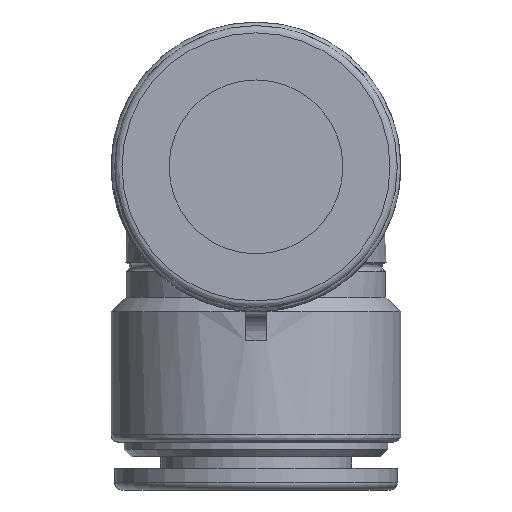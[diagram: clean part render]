
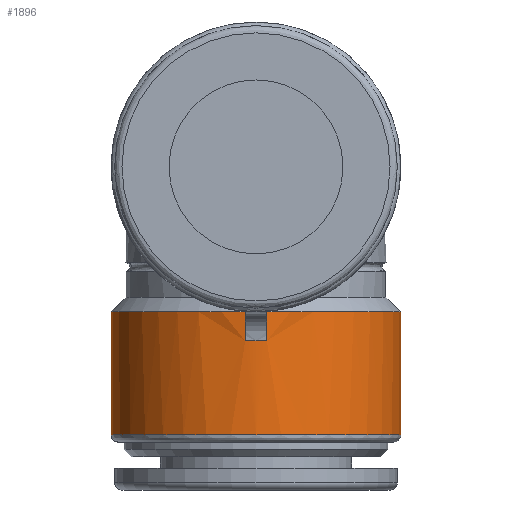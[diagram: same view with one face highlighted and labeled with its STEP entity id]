
A CAD part, left-side view. The second image highlights one B-rep face of the part: STEP entity #1896.
In plain terms, the highlighted free-form (B-spline) face has degree [1, 2] with [2, 9] control points.
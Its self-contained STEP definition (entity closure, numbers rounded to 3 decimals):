
#378=CARTESIAN_POINT('',(-10.,0.0,-12.));
#379=VERTEX_POINT('',#378);
#380=CARTESIAN_POINT('',(-9.972,0.75,-12.));
#381=VERTEX_POINT('',#380);
#382=CARTESIAN_POINT('',(0.,0.0,-12.));
#383=DIRECTION('',(0.0,0.0,-1.0));
#384=DIRECTION('',(1.0,0.0,0.0));
#385=AXIS2_PLACEMENT_3D('',#382,#383,#384);
#386=CIRCLE('',#385,10.0);
#387=EDGE_CURVE('',#379,#381,#386,.T.);
#411=CARTESIAN_POINT('',(-9.972,-0.75,-12.));
#412=VERTEX_POINT('',#411);
#413=CARTESIAN_POINT('',(0.,0.0,-12.));
#414=DIRECTION('',(0.0,0.0,-1.0));
#415=DIRECTION('',(1.0,0.0,0.0));
#416=AXIS2_PLACEMENT_3D('',#413,#414,#415);
#417=CIRCLE('',#416,10.0);
#418=EDGE_CURVE('',#412,#379,#417,.T.);
#452=CARTESIAN_POINT('',(-9.972,-0.75,-10.));
#453=VERTEX_POINT('',#452);
#454=CARTESIAN_POINT('',(-9.972,-0.75,-10.));
#455=DIRECTION('',(0.0,0.0,-1.0));
#456=VECTOR('',#455,2.);
#457=LINE('',#454,#456);
#458=EDGE_CURVE('',#453,#412,#457,.T.);
#601=CARTESIAN_POINT('',(-9.972,0.75,-10.));
#602=VERTEX_POINT('',#601);
#616=CARTESIAN_POINT('',(-9.972,0.75,-12.));
#617=DIRECTION('',(0.0,0.0,1.0));
#618=VECTOR('',#617,2.);
#619=LINE('',#616,#618);
#620=EDGE_CURVE('',#381,#602,#619,.T.);
#1706=CARTESIAN_POINT('',(0.,10.0,-18.5));
#1707=VERTEX_POINT('',#1706);
#1708=CARTESIAN_POINT('',(0.,0.0,-18.5));
#1709=DIRECTION('',(0.0,0.0,1.0));
#1710=DIRECTION('',(-1.0,0.0,0.0));
#1711=AXIS2_PLACEMENT_3D('',#1708,#1709,#1710);
#1712=CIRCLE('',#1711,10.0);
#1713=EDGE_CURVE('',#1707,#1707,#1712,.T.);
#1747=CARTESIAN_POINT('',(9.972,-0.75,-10.));
#1748=VERTEX_POINT('',#1747);
#1749=CARTESIAN_POINT('',(0.,0.0,-10.));
#1750=DIRECTION('',(0.0,0.0,1.0));
#1751=DIRECTION('',(1.0,0.0,0.0));
#1752=AXIS2_PLACEMENT_3D('',#1749,#1750,#1751);
#1753=CIRCLE('',#1752,10.0);
#1754=EDGE_CURVE('',#453,#1748,#1753,.T.);
#1801=CARTESIAN_POINT('',(9.972,0.75,-10.));
#1802=VERTEX_POINT('',#1801);
#1816=CARTESIAN_POINT('',(0.,0.0,-10.));
#1817=DIRECTION('',(0.0,0.0,-1.0));
#1818=DIRECTION('',(-1.0,0.0,0.0));
#1819=AXIS2_PLACEMENT_3D('',#1816,#1817,#1818);
#1820=CIRCLE('',#1819,10.0);
#1821=EDGE_CURVE('',#602,#1802,#1820,.T.);
#1827=CARTESIAN_POINT('',(10.,0.,-10.));
#1828=CARTESIAN_POINT('',(10.,0.,-18.5));
#1829=CARTESIAN_POINT('',(10.,10.0,-10.));
#1830=CARTESIAN_POINT('',(10.,10.0,-18.5));
#1831=CARTESIAN_POINT('',(0.,10.0,-10.0));
#1832=CARTESIAN_POINT('',(0.,10.0,-18.5));
#1833=CARTESIAN_POINT('',(-10.,10.,-10.));
#1834=CARTESIAN_POINT('',(-10.,10.,-18.5));
#1835=CARTESIAN_POINT('',(-10.,0.,-10.));
#1836=CARTESIAN_POINT('',(-10.,0.,-18.5));
#1837=CARTESIAN_POINT('',(-10.,-10.0,-10.));
#1838=CARTESIAN_POINT('',(-10.,-10.0,-18.5));
#1839=CARTESIAN_POINT('',(0.,-10.0,-10.0));
#1840=CARTESIAN_POINT('',(0.,-10.0,-18.5));
#1841=CARTESIAN_POINT('',(10.,-10.,-10.));
#1842=CARTESIAN_POINT('',(10.,-10.,-18.5));
#1843=CARTESIAN_POINT('',(10.,0.,-10.));
#1844=CARTESIAN_POINT('',(10.,0.,-18.5));
#1852=(BOUNDED_SURFACE()B_SPLINE_SURFACE(1,2,((#1827,#1829,#1831,#1833,#1835,#1837,#1839,#1841,#1843),(#1828,#1830,#1832,#1834,#1836,#1838,#1840,#1842,#1844)),.UNSPECIFIED.,.F.,.T.,.U.)B_SPLINE_SURFACE_WITH_KNOTS((2,2),(3,2,2,2,3),(0.1,0.95),(0.0,15.708,31.416,47.124,62.832),.UNSPECIFIED.)GEOMETRIC_REPRESENTATION_ITEM()RATIONAL_B_SPLINE_SURFACE(((1.0,0.707,1.0,0.707,1.0,0.707,1.0,0.707,1.0),(1.0,0.707,1.0,0.707,1.0,0.707,1.0,0.707,1.0)))REPRESENTATION_ITEM('')SURFACE());
#1853=ORIENTED_EDGE('',*,*,#1821,.T.);
#1854=CARTESIAN_POINT('',(9.972,0.75,-12.));
#1855=VERTEX_POINT('',#1854);
#1856=CARTESIAN_POINT('',(9.972,0.75,-12.));
#1857=DIRECTION('',(0.0,0.0,1.0));
#1858=VECTOR('',#1857,2.);
#1859=LINE('',#1856,#1858);
#1860=EDGE_CURVE('',#1855,#1802,#1859,.T.);
#1861=ORIENTED_EDGE('',*,*,#1860,.F.);
#1862=CARTESIAN_POINT('',(10.,0.0,-12.));
#1863=VERTEX_POINT('',#1862);
#1864=CARTESIAN_POINT('',(0.,0.0,-12.));
#1865=DIRECTION('',(0.0,0.0,1.0));
#1866=DIRECTION('',(-1.0,0.0,0.0));
#1867=AXIS2_PLACEMENT_3D('',#1864,#1865,#1866);
#1868=CIRCLE('',#1867,10.0);
#1869=EDGE_CURVE('',#1863,#1855,#1868,.T.);
#1870=ORIENTED_EDGE('',*,*,#1869,.F.);
#1871=CARTESIAN_POINT('',(9.972,-0.75,-12.));
#1872=VERTEX_POINT('',#1871);
#1873=CARTESIAN_POINT('',(0.,0.0,-12.));
#1874=DIRECTION('',(0.0,0.0,1.0));
#1875=DIRECTION('',(-1.0,0.0,0.0));
#1876=AXIS2_PLACEMENT_3D('',#1873,#1874,#1875);
#1877=CIRCLE('',#1876,10.0);
#1878=EDGE_CURVE('',#1872,#1863,#1877,.T.);
#1879=ORIENTED_EDGE('',*,*,#1878,.F.);
#1880=CARTESIAN_POINT('',(9.972,-0.75,-10.));
#1881=DIRECTION('',(0.0,0.0,-1.0));
#1882=VECTOR('',#1881,2.);
#1883=LINE('',#1880,#1882);
#1884=EDGE_CURVE('',#1748,#1872,#1883,.T.);
#1885=ORIENTED_EDGE('',*,*,#1884,.F.);
#1886=ORIENTED_EDGE('',*,*,#1754,.F.);
#1887=ORIENTED_EDGE('',*,*,#458,.T.);
#1888=ORIENTED_EDGE('',*,*,#418,.T.);
#1889=ORIENTED_EDGE('',*,*,#387,.T.);
#1890=ORIENTED_EDGE('',*,*,#620,.T.);
#1891=EDGE_LOOP('',(#1853,#1861,#1870,#1879,#1885,#1886,#1887,#1888,#1889,#1890));
#1892=FACE_OUTER_BOUND('',#1891,.T.);
#1893=ORIENTED_EDGE('',*,*,#1713,.T.);
#1894=EDGE_LOOP('',(#1893));
#1895=FACE_BOUND('',#1894,.T.);
#1896=ADVANCED_FACE('',(#1892,#1895),#1852,.T.);
